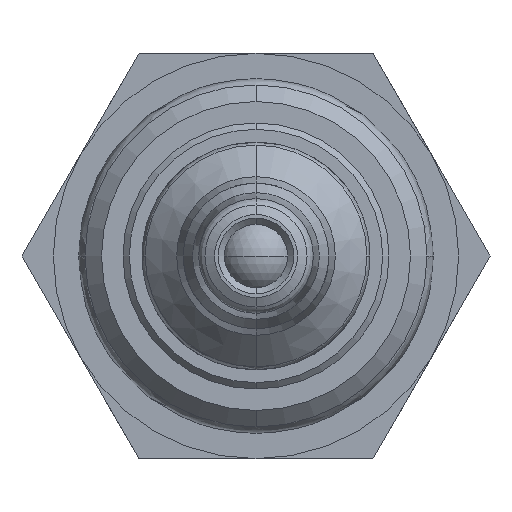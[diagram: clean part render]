
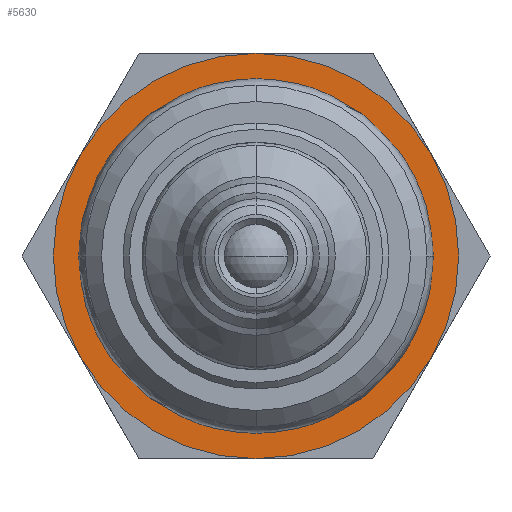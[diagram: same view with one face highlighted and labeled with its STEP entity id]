
A CAD part, front view. The second image highlights one B-rep face of the part: STEP entity #5630.
In plain terms, the highlighted planar face has unit normal (0, -1, 0).
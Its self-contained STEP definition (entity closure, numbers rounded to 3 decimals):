
#541 = CIRCLE ( 'NONE', #6977, 16. ) ;
#1277 = CARTESIAN_POINT ( 'NONE',  ( 0., 63.495, -16. ) ) ;
#1295 = CARTESIAN_POINT ( 'NONE',  ( 0., 63.495, -12.75 ) ) ;
#1339 = CARTESIAN_POINT ( 'NONE',  ( 0., 63.495, 16. ) ) ;
#2469 = AXIS2_PLACEMENT_3D ( 'NONE', #3936, #3937, #3938 ) ;
#2470 = AXIS2_PLACEMENT_3D ( 'NONE', #3942, #3943, #3944 ) ;
#2472 = AXIS2_PLACEMENT_3D ( 'NONE', #4124, #4125, #4126 ) ;
#2513 = AXIS2_PLACEMENT_3D ( 'NONE', #10949, #10950, #10951 ) ;
#3262 = CIRCLE ( 'NONE', #2469, 12.75 ) ;
#3270 = CIRCLE ( 'NONE', #2470, 12.75 ) ;
#3345 = CIRCLE ( 'NONE', #2472, 16. ) ;
#3464 = ORIENTED_EDGE ( 'NONE', *, *, #10154, .T. ) ;
#3936 = CARTESIAN_POINT ( 'NONE',  ( 0., 63.495, 0. ) ) ;
#3937 = DIRECTION ( 'NONE',  ( 0., -1., 0. ) ) ;
#3938 = DIRECTION ( 'NONE',  ( 0., 0., -1. ) ) ;
#3942 = CARTESIAN_POINT ( 'NONE',  ( 0., 63.495, 0. ) ) ;
#3943 = DIRECTION ( 'NONE',  ( 0., -1., 0. ) ) ;
#3944 = DIRECTION ( 'NONE',  ( 0., 0., -1. ) ) ;
#4124 = CARTESIAN_POINT ( 'NONE',  ( 0., 63.495, 0. ) ) ;
#4125 = DIRECTION ( 'NONE',  ( 0., -1., 0. ) ) ;
#4126 = DIRECTION ( 'NONE',  ( 0., 0., -1. ) ) ;
#4229 = EDGE_CURVE ( 'NONE', #9799, #8989, #3262, .T. ) ;
#4231 = EDGE_CURVE ( 'NONE', #8989, #9799, #3270, .T. ) ;
#4258 = EDGE_CURVE ( 'NONE', #9106, #8223, #3345, .T. ) ;
#5630 = ADVANCED_FACE ( 'NONE', ( #10544, #10548 ), #10948, .T. ) ;
#6977 = AXIS2_PLACEMENT_3D ( 'NONE', #8278, #8279, #8280 ) ;
#8223 = VERTEX_POINT ( 'NONE', #1277 ) ;
#8278 = CARTESIAN_POINT ( 'NONE',  ( 0., 63.495, 0. ) ) ;
#8279 = DIRECTION ( 'NONE',  ( 0., -1., 0. ) ) ;
#8280 = DIRECTION ( 'NONE',  ( 0., 0., -1. ) ) ;
#8705 = EDGE_LOOP ( 'NONE', ( #3464, #14049 ) ) ;
#8707 = EDGE_LOOP ( 'NONE', ( #14048, #14047 ) ) ;
#8989 = VERTEX_POINT ( 'NONE', #1295 ) ;
#9106 = VERTEX_POINT ( 'NONE', #1339 ) ;
#9799 = VERTEX_POINT ( 'NONE', #12392 ) ;
#10154 = EDGE_CURVE ( 'NONE', #8223, #9106, #541, .T. ) ;
#10544 = FACE_OUTER_BOUND ( 'NONE', #8705, .T. ) ;
#10548 = FACE_BOUND ( 'NONE', #8707, .T. ) ;
#10948 = PLANE ( 'NONE',  #2513 ) ;
#10949 = CARTESIAN_POINT ( 'NONE',  ( 12.75, 63.495, 0. ) ) ;
#10950 = DIRECTION ( 'NONE',  ( 0., -1., 0. ) ) ;
#10951 = DIRECTION ( 'NONE',  ( 0., 0., -1. ) ) ;
#12392 = CARTESIAN_POINT ( 'NONE',  ( 0., 63.495, 12.75 ) ) ;
#14047 = ORIENTED_EDGE ( 'NONE', *, *, #4229, .F. ) ;
#14048 = ORIENTED_EDGE ( 'NONE', *, *, #4231, .F. ) ;
#14049 = ORIENTED_EDGE ( 'NONE', *, *, #4258, .T. ) ;
